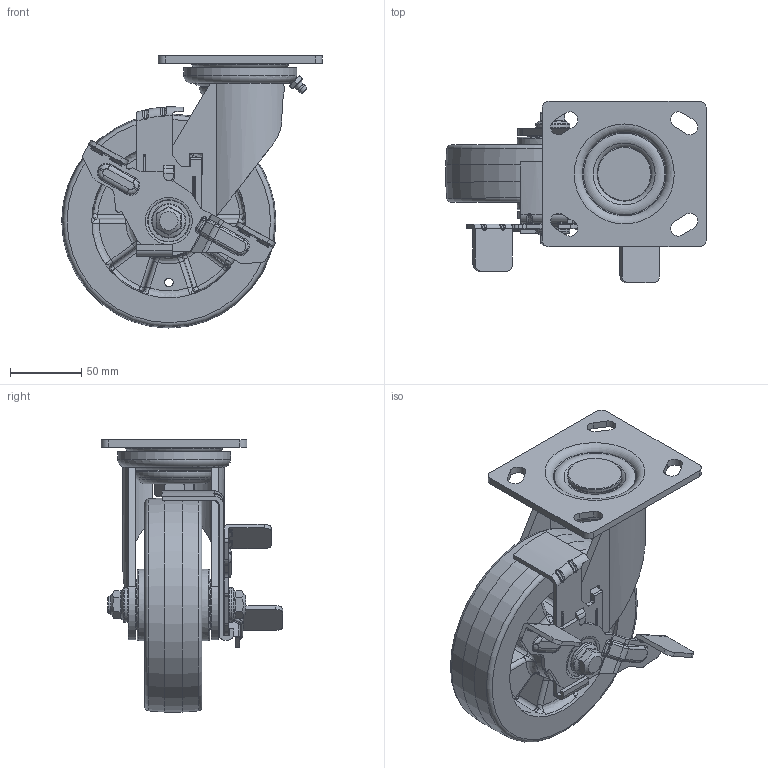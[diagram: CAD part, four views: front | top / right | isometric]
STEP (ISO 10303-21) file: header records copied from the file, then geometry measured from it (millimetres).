
FILE_DESCRIPTION((''),'2;1');
FILE_NAME('C:\Documents and Settings\Administrator\바탕 화면\3D STEP\PM-SERIES\PM-150B-SF\PM-150B-SF.stp','2010-12-27T15:04:04',('Administrator'),(''),'Autodesk Inventor 2009','Autodesk Inventor 2009','');
FILE_SCHEMA(('AUTOMOTIVE_DESIGN { 1 0 10303 214 1 1 1 1 }'));
Length unit declared in the file: millimetre
Products named in the file (1): PM-150B-SF
Bounding box: 182.5 x 127 x 190.5 mm (x, y, z)
Volume: 701301.4 mm3; surface area: 209476.7 mm2
Topology: 5 solids, 7 shells, 1131 faces, 2871 edges, 1694 vertices
Faces by surface type: bspline 487, cylinder 266, plane 230, cone 55, torus 51, sphere 42
Full cylindrical faces by diameter (mm): 6 x2, 12 x1, 16 x2, 18 x3, 21.5 x1, 24 x2, 30.5 x2, 35 x2, 35.18 x2, 38 x1, 41.192 x1, 61.087 x1, 69 x1, 79 x1, 150 x1
Entity records: 70151 total; most frequent: CARTESIAN_POINT 46820, ORIENTED_EDGE 5112, DIRECTION 4320, EDGE_CURVE 2556, AXIS2_PLACEMENT_3D 1830, VERTEX_POINT 1583, EDGE_LOOP 1311, FACE_OUTER_BOUND 1131
